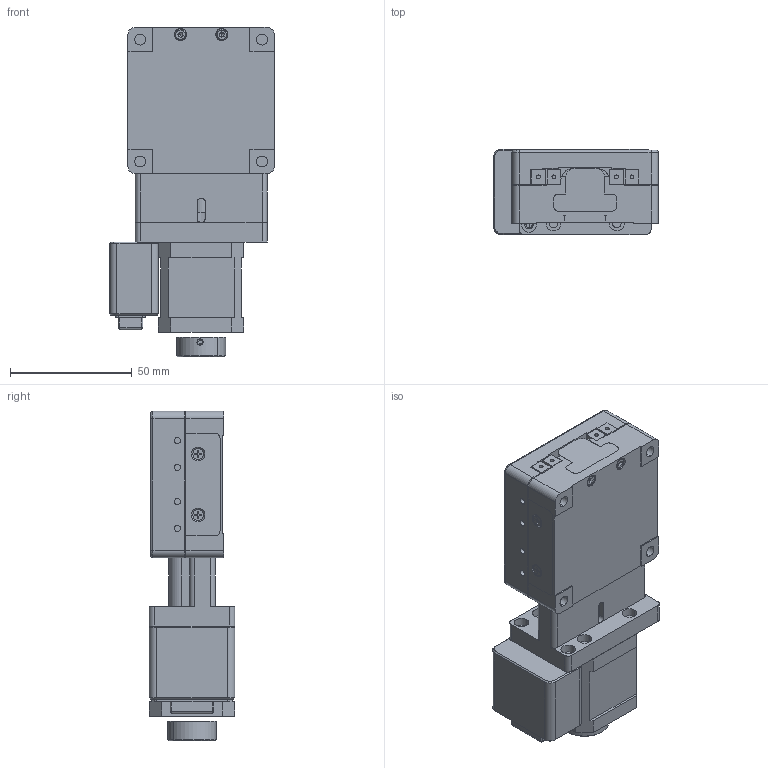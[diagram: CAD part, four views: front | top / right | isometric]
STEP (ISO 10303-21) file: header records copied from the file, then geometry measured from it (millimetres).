
FILE_DESCRIPTION (( 'STEP AP203' ), '1' );
FILE_NAME ('萇雄弇痄怢20mm俴最.STEP', '2019-12-09T09:39:54', ( 'SALES' ), ( 'Microsoft' ), 'SwSTEP 2.0', 'SolidWorks 2016', '' );
FILE_SCHEMA (( 'CONFIG_CONTROL_DESIGN' ));
Length unit declared in the file: millimetre
Products named in the file (1): 萇雄弇痄怢20mm俴最
Bounding box: 67.5 x 35 x 135 mm (x, y, z)
Surface area: 47237.1 mm2 (no closed solid volume)
Topology: 0 solids, 33 shells, 610 faces, 1975 edges, 1350 vertices
Faces by surface type: plane 320, cylinder 214, cone 44, torus 28, bspline 4
Entity records: 22288 total; most frequent: CARTESIAN_POINT 4504, DIRECTION 3898, ORIENTED_EDGE 3255, EDGE_CURVE 1947, AXIS2_PLACEMENT_3D 1370, VERTEX_POINT 1350, LINE 1158, VECTOR 1158
